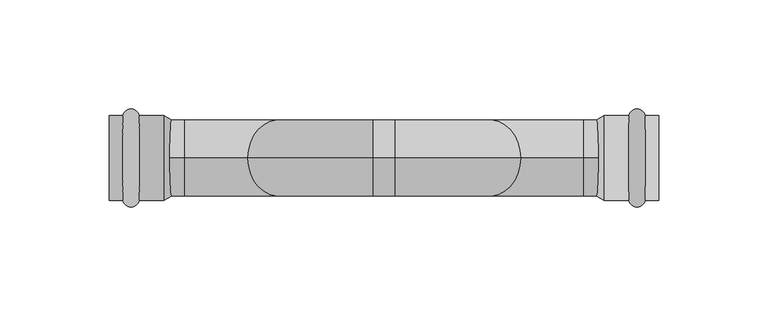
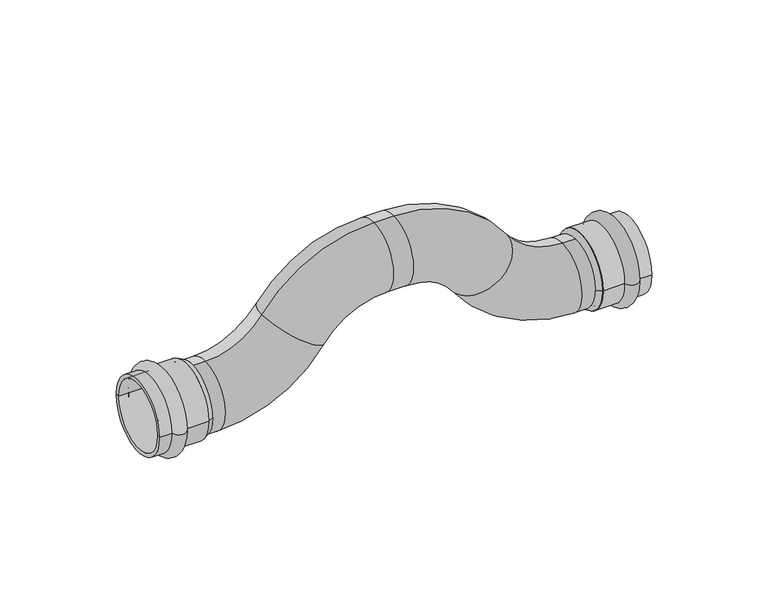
"""IFC4 building model written with IfcOpenShell, lengths in millimetres: pipe fitting geometry, VALTEC_VTi.971.I_Обвод (раструб–раструб)_Нержавеющая сталь : VTi.971.I."""

from ifc_helpers import new_model, si_unit, point, frame, origin, place, context, project, spatial, polyline, circle_curve, ellipse_curve, trimmed, source, transform, mapped, element, save
from ifc_brep_helpers import plane_surface, cylinder_surface, revolved_surface, advanced_brep


def pipe_fitting_c61a1035(model_context):
    return source(origin(), model_context, "Body", "AdvancedBrep", [
        advanced_brep(
        [(-101.0, 0.0, -17.5), (-101.0, 0.0, 17.5), (-91.5, 0.0, -17.5), (-91.5, 0.0, 17.5), (-5.0, 0.0, 62.5), (-5.0, 0.0, 27.5), (5.0, 0.0, 27.5), (5.0, 0.0, 62.5), (101.0, 0.0, -17.5), (101.0, 0.0, 17.5), (91.5, 0.0, 17.5), (91.5, 0.0, -17.5), (-62.5798535, 0.0, 32.5451629), (-33.9201465, 0.0, 12.4548371), (62.5798535, 0.0, 32.5451629), (33.9201465, 0.0, 12.4548371)],
        [
            (0, 1, circle_curve(frame((-101.0, 0.0, 0.0), z_axis=(-1.0, 0.0, 0.0), x_axis=(0.0, 0.0, 1.0)), 17.5)),
            (1, 0, circle_curve(frame((-101.0, 0.0, 0.0), z_axis=(-1.0, 0.0, 0.0), x_axis=(0.0, 0.0, 1.0)), 17.5)),
            (0, 2),
            (2, 3, circle_curve(frame((-91.5, 0.0, 0.0), z_axis=(-1.0, 0.0, 0.0), x_axis=(0.0, 0.0, 1.0)), 17.5)),
            (3, 1),
            (3, 2, circle_curve(frame((-91.5, 0.0, 0.0), z_axis=(-1.0, 0.0, 0.0), x_axis=(0.0, 0.0, 1.0)), 17.5)),
            (4, 5, circle_curve(frame((-5.0, 0.0, 45.0), z_axis=(1.0, 0.0, 0.0), x_axis=(0.0, 0.0, 1.0)), 17.5)),
            (5, 6),
            (6, 7, circle_curve(frame((5.0, 0.0, 45.0), z_axis=(-1.0, 0.0, 0.0), x_axis=(0.0, 0.0, 1.0)), 17.5)),
            (7, 4),
            (5, 4, circle_curve(frame((-5.0, 0.0, 45.0), z_axis=(1.0, 0.0, 0.0), x_axis=(0.0, 0.0, 1.0)), 17.5)),
            (7, 6, circle_curve(frame((5.0, 0.0, 45.0), z_axis=(-1.0, 0.0, 0.0), x_axis=(0.0, 0.0, 1.0)), 17.5)),
            (8, 9, circle_curve(frame((101.0, 0.0, 0.0), z_axis=(1.0, 0.0, 0.0), x_axis=(0.0, 0.0, 1.0)), 17.5)),
            (9, 8, circle_curve(frame((101.0, 0.0, 0.0), z_axis=(1.0, 0.0, 0.0), x_axis=(0.0, 0.0, 1.0)), 17.5)),
            (10, 11, circle_curve(frame((91.5, 0.0, 0.0), z_axis=(1.0, 0.0, 0.0), x_axis=(0.0, 0.0, 1.0)), 17.5)),
            (11, 8),
            (9, 10),
            (11, 10, circle_curve(frame((91.5, 0.0, 0.0), z_axis=(1.0, 0.0, 0.0), x_axis=(0.0, 0.0, 1.0)), 17.5)),
            (12, 3, circle_curve(frame((-91.5, 0.0, 52.8180556), z_axis=(0.0, 1.0, 0.0), x_axis=(0.0, 0.0, -1.0)), 35.3180556)),
            (2, 13, circle_curve(frame((-91.5, 0.0, 52.8180556), z_axis=(0.0, -1.0, 0.0), x_axis=(0.0, 0.0, -1.0)), 70.3180556)),
            (13, 12, circle_curve(frame((-48.25, 0.0, 22.5), z_axis=(-0.5740093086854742, 0.0, -0.8188487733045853), x_axis=(-0.8188487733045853, 0.0, 0.5740093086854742)), 17.5)),
            (12, 13, circle_curve(frame((-48.25, 0.0, 22.5), z_axis=(-0.5740093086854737, 0.0, -0.8188487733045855), x_axis=(-0.8188487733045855, 0.0, 0.5740093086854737)), 17.5)),
            (4, 12, circle_curve(frame((-5.0, 0.0, -7.8180556), z_axis=(0.0, -1.0, 0.0), x_axis=(-0.8188487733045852, 0.0, 0.5740093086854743)), 70.3180556)),
            (13, 5, circle_curve(frame((-5.0, 0.0, -7.8180556), z_axis=(0.0, 1.0, 0.0), x_axis=(-0.8188487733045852, 0.0, 0.5740093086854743)), 35.3180556)),
            (14, 7, circle_curve(frame((5.0, 0.0, -7.8180556), z_axis=(0.0, -1.0, 0.0), x_axis=(0.0, 0.0, 1.0)), 70.3180556)),
            (6, 15, circle_curve(frame((5.0, 0.0, -7.8180556), z_axis=(0.0, 1.0, 0.0), x_axis=(0.0, 0.0, 1.0)), 35.3180556)),
            (15, 14, circle_curve(frame((48.25, 0.0, 22.5), z_axis=(-0.5740093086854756, 0.0, 0.8188487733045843), x_axis=(0.8188487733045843, 0.0, 0.5740093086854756)), 17.5)),
            (14, 15, circle_curve(frame((48.25, 0.0, 22.5), z_axis=(-0.5740093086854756, 0.0, 0.8188487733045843), x_axis=(0.8188487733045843, 0.0, 0.5740093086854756)), 17.5)),
            (10, 14, circle_curve(frame((91.5, 0.0, 52.8180556), z_axis=(0.0, 1.0, 0.0), x_axis=(-0.8188487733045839, 0.0, -0.5740093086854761)), 35.3180556)),
            (15, 11, circle_curve(frame((91.5, 0.0, 52.8180556), z_axis=(0.0, -1.0, 0.0), x_axis=(-0.8188487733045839, 0.0, -0.5740093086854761)), 70.3180556)),
        ],
        [
            plane_surface(frame((-101.0, 0.0, 0.0), z_axis=(-1.0, 0.0, 0.0), x_axis=(0.0, -1.0, 0.0))),
            cylinder_surface(frame((-101.0, 0.0, 0.0), z_axis=(-1.0, 0.0, 0.0), x_axis=(0.0, 0.0, 1.0)), 17.5),
            cylinder_surface(frame((-5.0, 0.0, 45.0), z_axis=(-1.0, 0.0, 0.0), x_axis=(0.0, 0.0, 1.0)), 17.5),
            plane_surface(frame((101.0, 0.0, 0.0), z_axis=(1.0, 0.0, 0.0), x_axis=(0.0, -1.0, 0.0))),
            cylinder_surface(frame((91.5, 0.0, 0.0), z_axis=(-1.0, 0.0, 0.0), x_axis=(0.0, 0.0, 1.0)), 17.5),
            revolved_surface(trimmed(ellipse_curve(frame((-91.5, 0.0, 0.0), z_axis=(-1.0, 0.0, 0.0), x_axis=(0.0, 0.0, 1.0)), 17.5, 17.5), [point((-91.5, 0.0, -17.5))], [point((-91.5, 0.0, 17.5))], True, "CARTESIAN"), (-91.5, 0.0, 52.8180556), (0.0, -1.0, 0.0)),
            revolved_surface(trimmed(ellipse_curve(frame((-91.5, 0.0, 0.0), z_axis=(-1.0, 0.0, 0.0), x_axis=(0.0, 0.0, 1.0)), 17.5, 17.5), [point((-91.5, 0.0, 17.5))], [point((-91.5, 0.0, -17.5))], True, "CARTESIAN"), (-91.5, 0.0, 52.8180556), (0.0, -1.0, 0.0)),
            revolved_surface(trimmed(ellipse_curve(frame((-48.25, 0.0, 22.5), z_axis=(-0.5740093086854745, 0.0, -0.8188487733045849), x_axis=(-0.8188487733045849, 0.0, 0.5740093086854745)), 17.5, 17.5), [point((-33.9201465, 0.0, 12.4548371))], [point((-62.5798535, 0.0, 32.5451629))], True, "CARTESIAN"), (-5.0, 0.0, -7.8180556), (0.0, 1.0, 0.0)),
            revolved_surface(trimmed(ellipse_curve(frame((-48.25, 0.0, 22.5), z_axis=(-0.5740093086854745, 0.0, -0.8188487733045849), x_axis=(-0.8188487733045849, 0.0, 0.5740093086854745)), 17.5, 17.5), [point((-62.5798535, 0.0, 32.5451629))], [point((-33.9201465, 0.0, 12.4548371))], True, "CARTESIAN"), (-5.0, 0.0, -7.8180556), (0.0, 1.0, 0.0)),
            revolved_surface(trimmed(ellipse_curve(frame((5.0, 0.0, 45.0), z_axis=(-1.0, 0.0, 0.0), x_axis=(0.0, 0.0, 1.0)), 17.5, 17.5), [point((5.0, 0.0, 27.5))], [point((5.0, 0.0, 62.5))], True, "CARTESIAN"), (5.0, 0.0, -7.8180556), (0.0, 1.0, 0.0)),
            revolved_surface(trimmed(ellipse_curve(frame((5.0, 0.0, 45.0), z_axis=(-1.0, 0.0, 0.0), x_axis=(0.0, 0.0, 1.0)), 17.5, 17.5), [point((5.0, 0.0, 62.5))], [point((5.0, 0.0, 27.5))], True, "CARTESIAN"), (5.0, 0.0, -7.8180556), (0.0, 1.0, 0.0)),
            revolved_surface(trimmed(ellipse_curve(frame((48.25, 0.0, 22.5), z_axis=(-0.5740093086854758, 0.0, 0.818848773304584), x_axis=(0.818848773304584, 0.0, 0.5740093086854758)), 17.5, 17.5), [point((33.9201465, 0.0, 12.4548371))], [point((62.5798535, 0.0, 32.5451629))], True, "CARTESIAN"), (91.5, 0.0, 52.8180556), (0.0, -1.0, 0.0)),
            revolved_surface(trimmed(ellipse_curve(frame((48.25, 0.0, 22.5), z_axis=(-0.5740093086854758, 0.0, 0.818848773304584), x_axis=(0.818848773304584, 0.0, 0.5740093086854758)), 17.5, 17.5), [point((62.5798535, 0.0, 32.5451629))], [point((33.9201465, 0.0, 12.4548371))], True, "CARTESIAN"), (91.5, 0.0, 52.8180556), (0.0, -1.0, 0.0)),
        ],
        [
            (0, [[1, 2]]),
            (1, [[-1, 3, 4, 5]]),
            (1, [[-2, -5, 6, -3]]),
            (2, [[7, 8, 9, 10]]),
            (2, [[11, -10, 12, -8]]),
            (3, [[13, 14]]),
            (4, [[15, 16, -14, 17]]),
            (4, [[18, -17, -13, -16]]),
            (5, [[19, -4, 20, 21]]),
            (6, [[-20, -6, -19, 22]]),
            (7, [[23, -21, 24, -7]]),
            (8, [[-24, -22, -23, -11]]),
            (9, [[25, -9, 26, 27]]),
            (10, [[-26, -12, -25, 28]]),
            (11, [[29, -27, 30, -15]]),
            (12, [[-30, -28, -29, -18]]),
        ],
    ),
        advanced_brep(
        [(119.6432371, -19.4, 0.0), (112.2567629, -19.4, 0.0), (112.2567629, 19.4, 0.0), (119.6432371, 19.4, 0.0), (126.0, -19.4, 0.0), (126.0, 19.4, 0.0), (126.0, -17.5, 0.0), (126.0, 17.5, 0.0), (101.0, -17.5, 0.0), (101.0, 17.5, 0.0), (101.0, -19.4, 0.0), (101.0, 19.4, 0.0)],
        [
            (0, 1, circle_curve(frame((115.95, -18.75, 0.0), z_axis=(0.0, 0.0, -1.0), x_axis=(-1.0, 0.0, 0.0)), 3.75)),
            (1, 2, circle_curve(frame((112.2567629, 0.0, 0.0), z_axis=(1.0, 0.0, 0.0), x_axis=(0.0, 1.0, 0.0)), 19.4)),
            (2, 3, circle_curve(frame((115.95, 18.75, 0.0), z_axis=(0.0, 0.0, -1.0), x_axis=(-1.0, 0.0, 0.0)), 3.75)),
            (3, 0, circle_curve(frame((119.6432371, 0.0, 0.0), z_axis=(-1.0, 0.0, 0.0), x_axis=(0.0, 1.0, 0.0)), 19.4)),
            (2, 1, circle_curve(frame((112.2567629, 0.0, 0.0), z_axis=(1.0, 0.0, 0.0), x_axis=(0.0, 1.0, 0.0)), 19.4)),
            (0, 3, circle_curve(frame((119.6432371, 0.0, 0.0), z_axis=(-1.0, 0.0, 0.0), x_axis=(0.0, 1.0, 0.0)), 19.4)),
            (4, 0),
            (3, 5),
            (5, 4, circle_curve(frame((126.0, 0.0, 0.0), z_axis=(-1.0, 0.0, 0.0), x_axis=(0.0, 1.0, 0.0)), 19.4)),
            (4, 5, circle_curve(frame((126.0, 0.0, 0.0), z_axis=(-1.0, 0.0, 0.0), x_axis=(0.0, 1.0, 0.0)), 19.4)),
            (6, 4),
            (5, 7),
            (7, 6, circle_curve(frame((126.0, 0.0, 0.0), z_axis=(-1.0, 0.0, 0.0), x_axis=(0.0, 1.0, 0.0)), 17.5)),
            (6, 7, circle_curve(frame((126.0, 0.0, 0.0), z_axis=(-1.0, 0.0, 0.0), x_axis=(0.0, 1.0, 0.0)), 17.5)),
            (8, 6),
            (7, 9),
            (9, 8, circle_curve(frame((101.0, 0.0, 0.0), z_axis=(-1.0, 0.0, 0.0), x_axis=(0.0, 1.0, 0.0)), 17.5)),
            (8, 9, circle_curve(frame((101.0, 0.0, 0.0), z_axis=(-1.0, 0.0, 0.0), x_axis=(0.0, 1.0, 0.0)), 17.5)),
            (10, 8),
            (9, 11),
            (11, 10, circle_curve(frame((101.0, 0.0, 0.0), z_axis=(-1.0, 0.0, 0.0), x_axis=(0.0, 1.0, 0.0)), 19.4)),
            (10, 11, circle_curve(frame((101.0, 0.0, 0.0), z_axis=(-1.0, 0.0, 0.0), x_axis=(0.0, 1.0, 0.0)), 19.4)),
            (1, 10),
            (11, 2),
        ],
        [
            revolved_surface(trimmed(ellipse_curve(frame((115.95, 18.75, 0.0), z_axis=(0.0, 0.0, -1.0), x_axis=(-1.0, 0.0, 0.0)), 3.75, 3.75), [point((112.2567629, 19.4, 0.0))], [point((119.6432371, 19.4, 0.0))], True, "CARTESIAN"), (129.5364426, 0.0, 0.0), (1.0, 0.0, 0.0)),
            cylinder_surface(frame((129.5364426, 0.0, 0.0), z_axis=(1.0, 0.0, 0.0), x_axis=(0.0, 1.0, 0.0)), 19.4),
            plane_surface(frame((126.0, 0.0, 0.0), z_axis=(1.0, 0.0, 0.0), x_axis=(0.0, 1.0, 0.0))),
            revolved_surface(polyline([(126.0, 17.5, 0.0), (101.0, 17.5, 0.0)]), (129.5364426, 0.0, 0.0), (1.0, 0.0, 0.0)),
            plane_surface(frame((101.0, 0.0, 0.0), z_axis=(-1.0, 0.0, 0.0), x_axis=(0.0, 1.0, 0.0))),
        ],
        [
            (0, [[1, 2, 3, 4]]),
            (0, [[-3, 5, -1, 6]]),
            (1, [[7, -4, 8, 9]]),
            (1, [[-8, -6, -7, 10]]),
            (2, [[11, -9, 12, 13]]),
            (2, [[-12, -10, -11, 14]]),
            (3, [[15, -13, 16, 17]]),
            (3, [[-16, -14, -15, 18]]),
            (4, [[19, -17, 20, 21]]),
            (4, [[-20, -18, -19, 22]]),
            (1, [[23, -21, 24, -2]]),
            (1, [[-24, -22, -23, -5]]),
        ],
    ),
        advanced_brep(
        [(-119.6432371, -19.4, 0.0), (-119.6432371, 19.4, 0.0), (-112.2567629, 19.4, 0.0), (-112.2567629, -19.4, 0.0), (-126.0, -19.4, 0.0), (-126.0, 19.4, 0.0), (-126.0, -17.5, 0.0), (-126.0, 17.5, 0.0), (-101.0, -17.5, 0.0), (-101.0, 17.5, 0.0), (-101.0, -19.4, 0.0), (-101.0, 19.4, 0.0)],
        [
            (0, 1, circle_curve(frame((-119.6432371, 0.0, 0.0), z_axis=(1.0, 0.0, 0.0), x_axis=(0.0, 1.0, 0.0)), 19.4)),
            (1, 2, circle_curve(frame((-115.95, 18.75, 0.0), z_axis=(0.0, 0.0, -1.0), x_axis=(1.0, 0.0, 0.0)), 3.75)),
            (2, 3, circle_curve(frame((-112.2567629, 0.0, 0.0), z_axis=(-1.0, 0.0, 0.0), x_axis=(0.0, 1.0, 0.0)), 19.4)),
            (3, 0, circle_curve(frame((-115.95, -18.75, 0.0), z_axis=(0.0, 0.0, -1.0), x_axis=(1.0, 0.0, 0.0)), 3.75)),
            (1, 0, circle_curve(frame((-119.6432371, 0.0, 0.0), z_axis=(1.0, 0.0, 0.0), x_axis=(0.0, 1.0, 0.0)), 19.4)),
            (3, 2, circle_curve(frame((-112.2567629, 0.0, 0.0), z_axis=(-1.0, 0.0, 0.0), x_axis=(0.0, 1.0, 0.0)), 19.4)),
            (4, 5, circle_curve(frame((-126.0, 0.0, 0.0), z_axis=(1.0, 0.0, 0.0), x_axis=(0.0, 1.0, 0.0)), 19.4)),
            (5, 1),
            (0, 4),
            (5, 4, circle_curve(frame((-126.0, 0.0, 0.0), z_axis=(1.0, 0.0, 0.0), x_axis=(0.0, 1.0, 0.0)), 19.4)),
            (6, 7, circle_curve(frame((-126.0, 0.0, 0.0), z_axis=(1.0, 0.0, 0.0), x_axis=(0.0, 1.0, 0.0)), 17.5)),
            (7, 5),
            (4, 6),
            (7, 6, circle_curve(frame((-126.0, 0.0, 0.0), z_axis=(1.0, 0.0, 0.0), x_axis=(0.0, 1.0, 0.0)), 17.5)),
            (8, 9, circle_curve(frame((-101.0, 0.0, 0.0), z_axis=(1.0, 0.0, 0.0), x_axis=(0.0, 1.0, 0.0)), 17.5)),
            (9, 7),
            (6, 8),
            (9, 8, circle_curve(frame((-101.0, 0.0, 0.0), z_axis=(1.0, 0.0, 0.0), x_axis=(0.0, 1.0, 0.0)), 17.5)),
            (10, 11, circle_curve(frame((-101.0, 0.0, 0.0), z_axis=(1.0, 0.0, 0.0), x_axis=(0.0, 1.0, 0.0)), 19.4)),
            (11, 9),
            (8, 10),
            (11, 10, circle_curve(frame((-101.0, 0.0, 0.0), z_axis=(1.0, 0.0, 0.0), x_axis=(0.0, 1.0, 0.0)), 19.4)),
            (2, 11),
            (10, 3),
        ],
        [
            revolved_surface(trimmed(ellipse_curve(frame((-115.95, 18.75, 0.0), z_axis=(0.0, 0.0, 1.0), x_axis=(1.0, 0.0, 0.0)), 3.75, 3.75), [point((-112.2567629, 19.4, 0.0))], [point((-119.6432371, 19.4, 0.0))], True, "CARTESIAN"), (-129.5364426, 0.0, 0.0), (-1.0, 0.0, 0.0)),
            cylinder_surface(frame((-129.5364426, 0.0, 0.0), z_axis=(-1.0, 0.0, 0.0), x_axis=(0.0, 1.0, 0.0)), 19.4),
            plane_surface(frame((-126.0, 0.0, 0.0), z_axis=(-1.0, 0.0, 0.0), x_axis=(0.0, 1.0, 0.0))),
            revolved_surface(polyline([(-126.0, 17.5, 0.0), (-101.0, 17.5, 0.0)]), (-129.5364426, 0.0, 0.0), (-1.0, 0.0, 0.0)),
            plane_surface(frame((-101.0, 0.0, 0.0), z_axis=(1.0, 0.0, 0.0), x_axis=(0.0, 1.0, 0.0))),
        ],
        [
            (0, [[1, 2, 3, 4]]),
            (0, [[5, -4, 6, -2]]),
            (1, [[7, 8, -1, 9]]),
            (1, [[10, -9, -5, -8]]),
            (2, [[11, 12, -7, 13]]),
            (2, [[14, -13, -10, -12]]),
            (3, [[15, 16, -11, 17]]),
            (3, [[18, -17, -14, -16]]),
            (4, [[19, 20, -15, 21]]),
            (4, [[22, -21, -18, -20]]),
            (1, [[-3, 23, -19, 24]]),
            (1, [[-6, -24, -22, -23]]),
        ],
    ),
        advanced_brep(
        [(101.0, 19.4, 0.0), (101.0, -19.4, 0.0), (97.3, 17.5, 0.0), (97.3, -17.5, 0.0)],
        [
            (0, 1, circle_curve(frame((101.0, 0.0, 0.0), z_axis=(1.0, 0.0, 0.0), x_axis=(0.0, 1.0, 0.0)), 19.4)),
            (1, 0, circle_curve(frame((101.0, 0.0, 0.0), z_axis=(1.0, 0.0, 0.0), x_axis=(0.0, -1.0, 0.0)), 19.4)),
            (2, 3, circle_curve(frame((97.3, 0.0, 0.0), z_axis=(-1.0, 0.0, 0.0), x_axis=(0.0, -1.0, 0.0)), 17.5)),
            (3, 2, circle_curve(frame((97.3, 0.0, 0.0), z_axis=(-1.0, 0.0, 0.0), x_axis=(0.0, 1.0, 0.0)), 17.5)),
            (1, 3),
            (2, 0),
        ],
        [
            plane_surface(frame((101.0, 0.0, 0.0), z_axis=(1.0, 0.0, 0.0), x_axis=(0.0, 0.0, -1.0))),
            plane_surface(frame((97.3, 0.0, 0.0), z_axis=(-1.0, 0.0, 0.0), x_axis=(0.0, 0.0, -1.0))),
            revolved_surface(polyline([(97.3, 17.500000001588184, 0.0), (101.0, 19.4, 0.0)]), (63.2210526, 0.0, 0.0), (1.0, 0.0, 0.0)),
            revolved_surface(polyline([(97.3, -17.500000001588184, 0.0), (101.0, -19.4, 0.0)]), (63.2210526, 0.0, 0.0), (1.0, 0.0, 0.0)),
        ],
        [
            (0, [[1, 2]]),
            (1, [[3, 4]]),
            (2, [[-2, 5, -3, 6]]),
            (3, [[-1, -6, -4, -5]]),
        ],
    ),
        advanced_brep(
        [(-101.0, 19.4, 0.0), (-101.0, -19.4, 0.0), (-97.3, 17.5, 0.0), (-97.3, -17.5, 0.0)],
        [
            (0, 1, circle_curve(frame((-101.0, 0.0, 0.0), z_axis=(-1.0, 0.0, 0.0), x_axis=(0.0, 1.0, 0.0)), 19.4)),
            (1, 0, circle_curve(frame((-101.0, 0.0, 0.0), z_axis=(-1.0, 0.0, 0.0), x_axis=(0.0, -1.0, 0.0)), 19.4)),
            (2, 3, circle_curve(frame((-97.3, 0.0, 0.0), z_axis=(1.0, 0.0, 0.0), x_axis=(0.0, -1.0, 0.0)), 17.5)),
            (3, 2, circle_curve(frame((-97.3, 0.0, 0.0), z_axis=(1.0, 0.0, 0.0), x_axis=(0.0, 1.0, 0.0)), 17.5)),
            (0, 2),
            (3, 1),
        ],
        [
            plane_surface(frame((-101.0, 0.0, 0.0), z_axis=(-1.0, 0.0, 0.0), x_axis=(0.0, 0.0, 1.0))),
            plane_surface(frame((-97.3, 0.0, 0.0), z_axis=(1.0, 0.0, 0.0), x_axis=(0.0, 0.0, 1.0))),
            revolved_surface(polyline([(-97.3, -17.500000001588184, 0.0), (-101.0, -19.4, 0.0)]), (-63.2210526, 0.0, 0.0), (-1.0, 0.0, 0.0)),
            revolved_surface(polyline([(-97.3, 17.500000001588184, 0.0), (-101.0, 19.4, 0.0)]), (-63.2210526, 0.0, 0.0), (-1.0, 0.0, 0.0)),
        ],
        [
            (0, [[1, 2]]),
            (1, [[3, 4]]),
            (2, [[-1, 5, -4, 6]]),
            (3, [[-2, -6, -3, -5]]),
        ],
    ),
    ])


if __name__ == "__main__":
    model = new_model("IFC4")
    model_context = context("Model", 3, world=origin())
    ifc_project = project(units=[si_unit("LENGTHUNIT", "METRE", prefix="MILLI")], contexts=[model_context])
    site = spatial("IfcSite", under=ifc_project)
    building = spatial("IfcBuilding", under=site)
    placement = place(None, origin())
    pipe_fitting_shape = pipe_fitting_c61a1035(model_context)
    element("IfcPipeFitting", 1, ObjectType="VALTEC_VTi.971.I_Обвод (раструб–раструб)_Нержавеющая сталь : VTi.971.I", at=placement, inside=building, context=model_context, shape_type="MappedRepresentation", body=[
        mapped(pipe_fitting_shape, transform((0.0, 0.0, 0.0), x_axis=(1.0, 0.0, 0.0), y_axis=(0.0, 1.0, 0.0), z_axis=(0.0, 0.0, 1.0))),
    ])
    save(model, "model.ifc")
